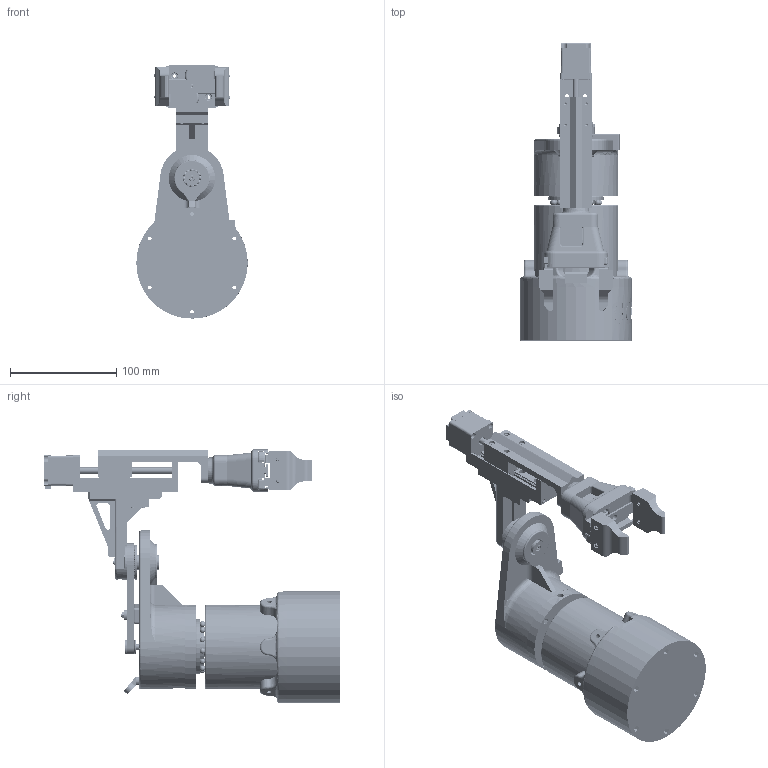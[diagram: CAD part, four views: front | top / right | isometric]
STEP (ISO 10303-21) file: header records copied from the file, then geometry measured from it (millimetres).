
FILE_DESCRIPTION(/* description */ (''),/* implementation_level */ '2;1');
FILE_NAME(/* name */ 'Assieme_scara_nema4.stp',/* time_stamp */ '2025-12-14T13:13:45+01:00',/* author */ ('R5800u'),/* organization */ (''),/* preprocessor_version */ 'ST-DEVELOPER v20',/* originating_system */ 'Autodesk Inventor 2025',/* authorisation */ '');
FILE_SCHEMA (('AUTOMOTIVE_DESIGN { 1 0 10303 214 3 1 1 }'));
Length unit declared in the file: millimetre
Products named in the file (62): Assieme_scara_nema; NEMA 17HS4401S-PG518; base_01; ISO 104 - 1 11 35 x 52 x 12; piatto_sopra_base; blocco_nema2; blocco_esterno_base; GT2 16 Teeth Free Pulley; %3% BS 290 - SKF 608; NEMA 42SHDC3030Z; Parametric GT2 pulley v5; perno_8mm; tendi_cinghia; AS 1420 - 1973 - M3 x 14; %3% BS 290 - SKF 623; AS 1474 - M2,5; rinforzo; guida_lineare_50mm; profilato; profilato_cuscinetto; profilato_motore; Nema11; 00144585; 00144585_01; 00144585_02; 00144585_03; 00144585_04; 00144585_05; 00144585_06; 00144585_07; 00144585_08; 00144585_09; 00144585_10; 00144585_11; 00144585_12; 00144585_13; 00144585_14; Actuator_MGN9; AS 1420 - 1973 - M3 x 6; Actuator_MGN9C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
Assembly tree (77 placements, depth 4):
  Assieme_scara_nema
    NEMA 17HS4401S-PG518
    base_01
    ISO 104 - 1 11 35 x 52 x 12
    piatto_sopra_base
    blocco_nema2
    blocco_esterno_base
    GT2 16 Teeth Free Pulley
    %3% BS 290 - SKF 608  x2
    NEMA 42SHDC3030Z
    Parametric GT2 pulley v5
    perno_8mm
    tendi_cinghia
    AS 1420 - 1973 - M3 x 14
    %3% BS 290 - SKF 623  x2
    AS 1474 - M2,5
    rinforzo
    guida_lineare_50mm
      profilato
      profilato_cuscinetto
      profilato_motore
      Nema11
      00144585
        00144585_01
        00144585_02
        00144585_03
        00144585_04
        00144585_05
        00144585_06
        00144585_07
        00144585_08
        00144585_09
        00144585_10
        00144585_11
        00144585_12
        00144585_13
        00144585_14
      Actuator_MGN9
      AS 1420 - 1973 - M3 x 6  x4
      Actuator_MGN9C
      Carriage
      AS 1420 - 1973 - M3 x 12  x4
    ANSI B18.3.1M - M3x0,5 x 12, FSHCSM  x2
    blocco_pinza
    ANSI B18.3.1M - M3x0,5 x 40, FSHCSM
    gripper
      gripper_rail_base
      gripper_finger  x2
      gripper_base_plate
      MG90S_assieme_disco_ldb2
        MG90_ldb
        scritta_MG90s  x2
      MG90S 9g Micro Servo Medium Horn 12 holes
      blocco_giunto_polso
      gripper_spur_gear v2
      dito1  x2
      AS 1420 - 1973 - M3 x 10  x5
      BS 4168 - M2,5 x 10
      AS 1427 - M2 x 12
    cinghia
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Bounding box: 105 x 279.9 x 238.85 mm (x, y, z)
Volume: 1205269.7 mm3; surface area: 344108.5 mm2
Topology: 90 solids, 92 shells, 5397 faces, 14395 edges, 9278 vertices
Faces by surface type: plane 3435, cylinder 1097, bspline 457, torus 212, cone 103, sphere 93
Full cylindrical faces by diameter (mm): 1.03 x6, 1.1 x16, 1.167 x3, 1.2 x2, 1.5 x2, 1.6 x4, 1.755 x1, 2 x3, 2.013 x1, 2.05 x4, 2.2 x1, 2.3 x4, 2.459 x6, 2.47 x1, 2.5 x11, 2.7 x3, 2.8 x4, 2.9 x5, 3 x38, 3.2 x47, 3.4 x45, 3.5 x5, 4 x1, 4.3 x6, 4.5 x1, 4.68 x8, 4.69 x1, 4.8 x1, 5 x8, 5.24 x4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
Entity records: 216963 total; most frequent: CARTESIAN_POINT 90922, ORIENTED_EDGE 25684, DIRECTION 23993, EDGE_CURVE 12842, LINE 8479, VECTOR 8479, VERTEX_POINT 8306, AXIS2_PLACEMENT_3D 7757
